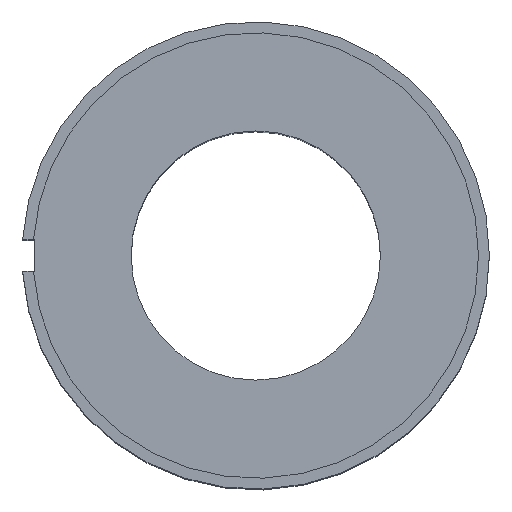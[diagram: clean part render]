
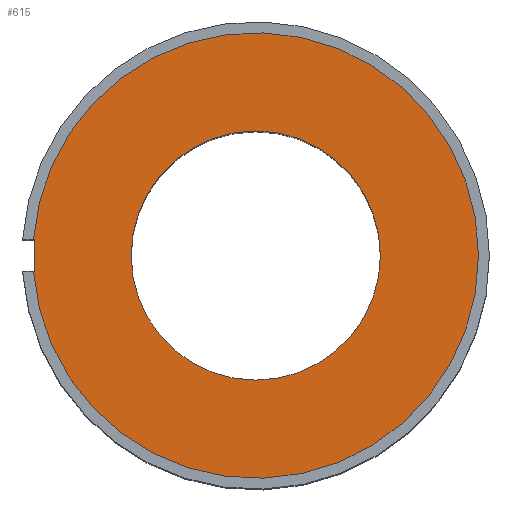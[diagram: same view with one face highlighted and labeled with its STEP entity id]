
A CAD part, top view. The second image highlights one B-rep face of the part: STEP entity #615.
In plain terms, the highlighted planar face has unit normal (0, 0, 1).
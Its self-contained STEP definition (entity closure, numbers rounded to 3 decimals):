
#91=CARTESIAN_POINT('',(-4.0,0.,17.0));
#92=VERTEX_POINT('',#91);
#101=CARTESIAN_POINT('',(4.0,0.,17.0));
#102=VERTEX_POINT('',#101);
#103=CARTESIAN_POINT('',(0.0,0.0,17.0));
#104=DIRECTION('',(0.0,0.0,-1.0));
#105=DIRECTION('',(-1.0,0.0,0.0));
#106=AXIS2_PLACEMENT_3D('',#103,#104,#105);
#107=CIRCLE('',#106,4.0);
#108=EDGE_CURVE('',#102,#92,#107,.T.);
#385=CARTESIAN_POINT('',(-7.132,-0.5,17.0));
#386=VERTEX_POINT('',#385);
#393=CARTESIAN_POINT('',(-7.1,-0.5,17.0));
#394=VERTEX_POINT('',#393);
#395=CARTESIAN_POINT('',(-7.1,-0.5,17.0));
#396=DIRECTION('',(-1.0,0.0,0.0));
#397=VECTOR('',#396,0.032);
#398=LINE('',#395,#397);
#399=EDGE_CURVE('',#394,#386,#398,.T.);
#533=CARTESIAN_POINT('',(-7.1,0.5,17.0));
#534=VERTEX_POINT('',#533);
#541=CARTESIAN_POINT('',(-7.132,0.5,17.0));
#542=VERTEX_POINT('',#541);
#543=CARTESIAN_POINT('',(-7.132,0.5,17.0));
#544=DIRECTION('',(1.0,0.0,0.0));
#545=VECTOR('',#544,0.032);
#546=LINE('',#543,#545);
#547=EDGE_CURVE('',#542,#534,#546,.T.);
#578=CARTESIAN_POINT('',(-7.1,0.5,17.0));
#579=DIRECTION('',(0.0,-1.0,0.0));
#580=VECTOR('',#579,1.0);
#581=LINE('',#578,#580);
#582=EDGE_CURVE('',#534,#394,#581,.T.);
#588=CARTESIAN_POINT('',(0.0,0.0,17.0));
#589=DIRECTION('',(0.0,0.0,-1.0));
#590=DIRECTION('',(-1.0,0.0,0.0));
#591=AXIS2_PLACEMENT_3D('',#588,#589,#590);
#592=PLANE('',#591);
#593=ORIENTED_EDGE('',*,*,#547,.T.);
#594=ORIENTED_EDGE('',*,*,#582,.T.);
#595=ORIENTED_EDGE('',*,*,#399,.T.);
#596=CARTESIAN_POINT('',(0.0,0.0,17.0));
#597=DIRECTION('',(0.0,0.0,-1.0));
#598=DIRECTION('',(1.0,0.0,0.0));
#599=AXIS2_PLACEMENT_3D('',#596,#597,#598);
#600=CIRCLE('',#599,7.15);
#601=EDGE_CURVE('',#542,#386,#600,.T.);
#602=ORIENTED_EDGE('',*,*,#601,.F.);
#603=EDGE_LOOP('',(#593,#594,#595,#602));
#604=FACE_OUTER_BOUND('',#603,.T.);
#605=ORIENTED_EDGE('',*,*,#108,.T.);
#606=CARTESIAN_POINT('',(0.0,0.0,17.0));
#607=DIRECTION('',(0.0,0.0,-1.0));
#608=DIRECTION('',(-1.0,0.0,0.0));
#609=AXIS2_PLACEMENT_3D('',#606,#607,#608);
#610=CIRCLE('',#609,4.0);
#611=EDGE_CURVE('',#92,#102,#610,.T.);
#612=ORIENTED_EDGE('',*,*,#611,.T.);
#613=EDGE_LOOP('',(#605,#612));
#614=FACE_BOUND('',#613,.T.);
#615=ADVANCED_FACE('',(#604,#614),#592,.F.);
